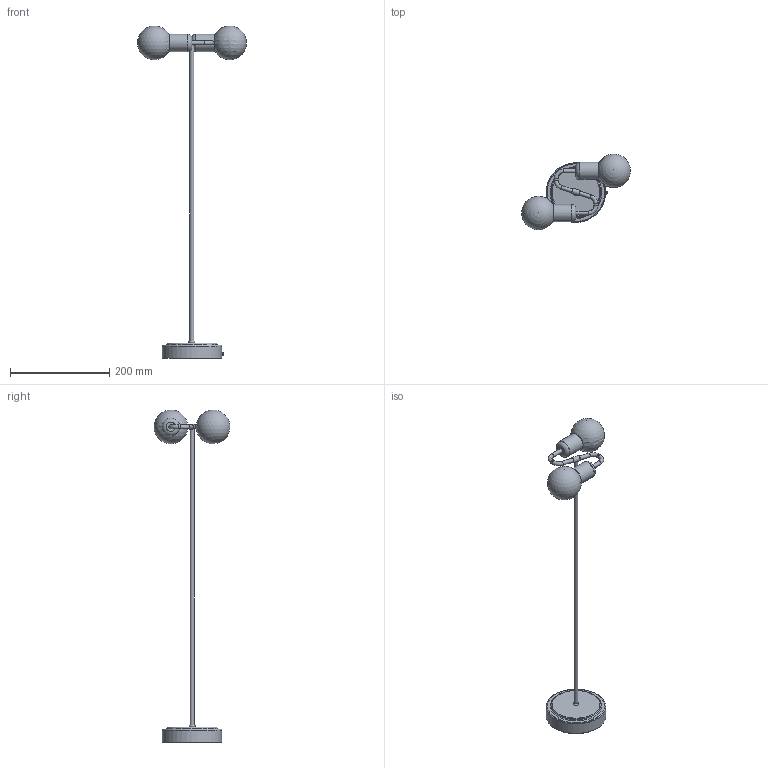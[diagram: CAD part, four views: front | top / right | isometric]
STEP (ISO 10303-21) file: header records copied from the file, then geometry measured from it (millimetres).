
FILE_DESCRIPTION(/* description */ (''),/* implementation_level */ '2;1');
FILE_NAME(/* name */ 'C:\Users\Patryk\Desktop\Modele MOSIĄDZ\ÜLAMPA S.stp',/* time_stamp */ '2019-12-15T01:50:44+01:00',/* author */ ('Patryk'),/* organization */ (''),/* preprocessor_version */ 'ST-DEVELOPER v17',/* originating_system */ 'Autodesk Inventor 2019',/* authorisation */ '');
FILE_SCHEMA (('AUTOMOTIVE_DESIGN { 1 0 10303 214 3 1 1 }'));
Length unit declared in the file: millimetre
Products named in the file (9): LAMPA S; S mocowanie do sciany; S mocowanie rurki; S rurka II; S rurka; S tulejka; S klosz; BS 4183 - M3,5 x 5; klosz II
Assembly tree (10 placements, depth 2):
  LAMPA S
    S klosz  x2
    S mocowanie do sciany
    S mocowanie rurki
    S rurka II
    S rurka
    S tulejka
    BS 4183 - M3,5 x 5
    klosz II  x2
Bounding box: 218.94 x 152.44 x 667.99 mm (x, y, z)
Volume: 437218.4 mm3; surface area: 120207.5 mm2
Topology: 10 solids, 10 shells, 70 faces, 145 edges, 99 vertices
Faces by surface type: plane 28, cylinder 20, torus 17, cone 3, sphere 2
Full cylindrical faces by diameter (mm): 3.132 x1, 3.5 x1, 4 x1, 8 x8, 11 x1, 28.487 x2, 33 x2, 35 x2, 118 x1, 120 x1
Entity records: 2123 total; most frequent: CARTESIAN_POINT 404, DIRECTION 360, ORIENTED_EDGE 252, AXIS2_PLACEMENT_3D 168, EDGE_CURVE 126, CIRCLE 90, VERTEX_POINT 88, EDGE_LOOP 70
